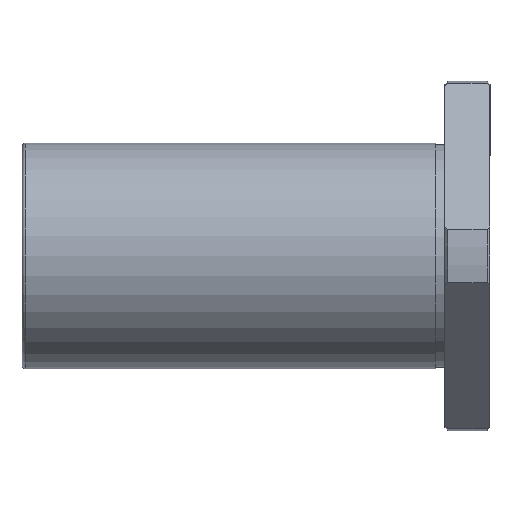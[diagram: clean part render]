
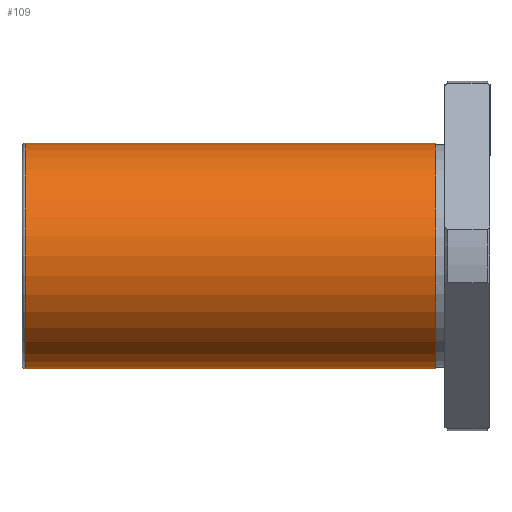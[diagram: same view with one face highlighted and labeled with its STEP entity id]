
A CAD part, front view. The second image highlights one B-rep face of the part: STEP entity #109.
In plain terms, the highlighted cylindrical face has radius 20 mm (diameter 40 mm), a full revolution.
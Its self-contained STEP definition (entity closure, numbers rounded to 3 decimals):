
#109=ADVANCED_FACE('',(#206,#207),#208,.T.);
#206=FACE_OUTER_BOUND('',#306,.T.);
#207=FACE_OUTER_BOUND('',#307,.T.);
#208=CYLINDRICAL_SURFACE('',#308,20.0);
#306=EDGE_LOOP('',(#552));
#307=EDGE_LOOP('',(#553));
#308=AXIS2_PLACEMENT_3D('',#554,#555,#556);
#552=ORIENTED_EDGE('',*,*,#605,.T.);
#553=ORIENTED_EDGE('',*,*,#632,.T.);
#554=CARTESIAN_POINT('',(-34.0,0.,0.));
#555=DIRECTION('',(-1.0,-0.0,0.));
#556=DIRECTION('',(0.0,1.0,0.0));
#605=EDGE_CURVE('',#714,#714,#715,.F.);
#632=EDGE_CURVE('',#757,#757,#758,.T.);
#714=VERTEX_POINT('',#941);
#715=CIRCLE('',#942,20.0);
#757=VERTEX_POINT('',#1043);
#758=CIRCLE('',#1044,20.0);
#941=CARTESIAN_POINT('',(-82.4,0.,20.0));
#942=AXIS2_PLACEMENT_3D('',#1122,#1123,#1124);
#1043=CARTESIAN_POINT('',(-9.6,20.0,0.));
#1044=AXIS2_PLACEMENT_3D('',#1175,#1176,#1177);
#1122=CARTESIAN_POINT('',(-82.4,0.,0.));
#1123=DIRECTION('',(-1.0,0.,0.));
#1124=DIRECTION('',(0.,0.0,1.0));
#1175=CARTESIAN_POINT('',(-9.6,0.,0.));
#1176=DIRECTION('',(-1.0,0.0,0.));
#1177=DIRECTION('',(0.0,1.0,0.0));
